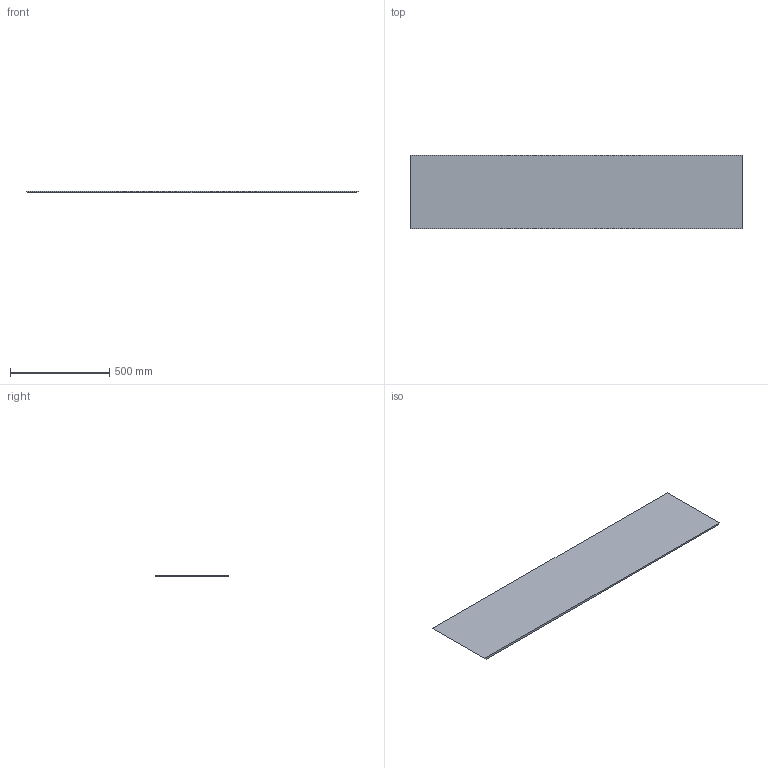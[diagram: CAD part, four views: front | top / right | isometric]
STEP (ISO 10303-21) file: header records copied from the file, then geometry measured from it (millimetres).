
FILE_DESCRIPTION(('Open CASCADE Model'),'2;1');
FILE_NAME('Open CASCADE Shape Model','2026-10-15T15:10:04',('Author'),( 'Open CASCADE'),'Open CASCADE STEP processor 8.0','Open CASCADE 8.0' ,'Unknown');
FILE_SCHEMA(('AUTOMOTIVE_DESIGN { 1 0 10303 214 1 1 1 1 }'));
Length unit declared in the file: millimetre
Products named in the file (1): LINER_CUERPO_UHMW10_P05 86
Bounding box: 1670 x 370.15 x 10 mm (x, y, z)
Volume: 6144490 mm3; surface area: 1272567.4 mm2
Topology: 1 solids, 1 shells, 6 faces, 12 edges, 8 vertices
Faces by surface type: plane 6
Entity records: 310 total; most frequent: CARTESIAN_POINT 63, DIRECTION 38, ORIENTED_EDGE 24, LINE 24, VECTOR 24, PCURVE 24, DEFINITIONAL_REPRESENTATION 24, EDGE_CURVE 12
